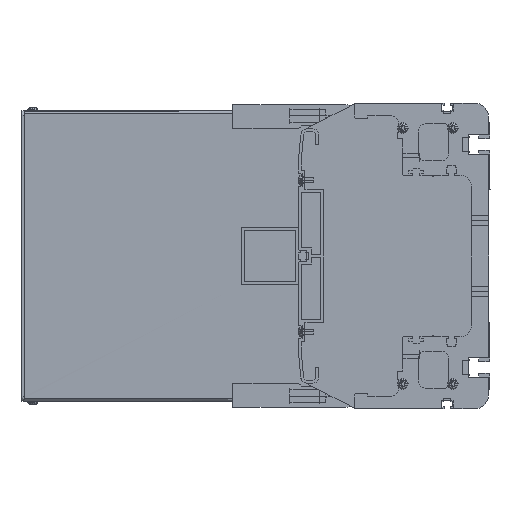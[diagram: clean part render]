
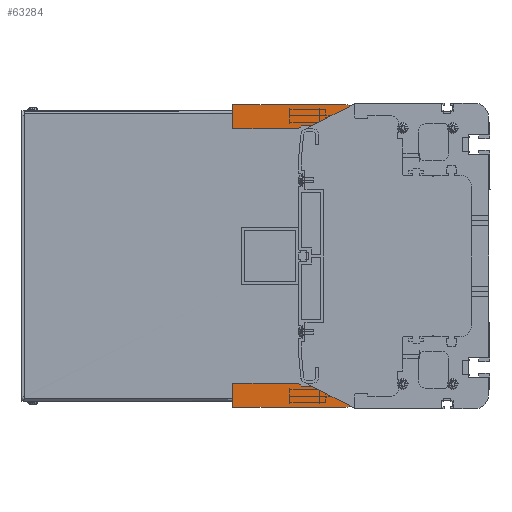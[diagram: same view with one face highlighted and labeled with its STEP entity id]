
A CAD part, left-side view. The second image highlights one B-rep face of the part: STEP entity #63284.
In plain terms, the highlighted planar face has unit normal (-1, 0, 0).
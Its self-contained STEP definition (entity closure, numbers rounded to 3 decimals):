
#58808=DIRECTION('',(0.,0.,1.));
#58809=VECTOR('',#58808,134.);
#58810=CARTESIAN_POINT('',(-434.5,111.,-67.));
#58811=LINE('',#58810,#58809);
#59073=DIRECTION('',(0.,1.,0.));
#59074=VECTOR('',#59073,46.);
#59075=CARTESIAN_POINT('',(-434.5,134.,-89.));
#59076=LINE('',#59075,#59074);
#59298=DIRECTION('',(0.,0.,1.));
#59299=VECTOR('',#59298,13.);
#59300=CARTESIAN_POINT('',(-434.5,114.5,-86.));
#59301=LINE('',#59300,#59299);
#59434=DIRECTION('',(0.,1.,0.));
#59435=VECTOR('',#59434,79.);
#59436=CARTESIAN_POINT('',(-434.5,101.,-106.));
#59437=LINE('',#59436,#59435);
#59438=DIRECTION('',(0.,-0.707,-0.707));
#59439=VECTOR('',#59438,2.828);
#59440=CARTESIAN_POINT('',(-434.5,134.,-89.));
#59441=LINE('',#59440,#59439);
#59442=CARTESIAN_POINT('',(-434.5,119.5,-86.));
#59443=DIRECTION('',(-1.,0.,0.));
#59444=DIRECTION('',(0.,0.,-1.));
#59445=AXIS2_PLACEMENT_3D('',#59442,#59443,#59444);
#59447=CARTESIAN_POINT('',(-434.5,119.5,86.));
#59448=DIRECTION('',(-1.,0.,0.));
#59449=DIRECTION('',(0.,-1.,0.));
#59450=AXIS2_PLACEMENT_3D('',#59447,#59448,#59449);
#59452=DIRECTION('',(0.,0.707,-0.707));
#59453=VECTOR('',#59452,2.828);
#59454=CARTESIAN_POINT('',(-434.5,132.,91.));
#59455=LINE('',#59454,#59453);
#59456=DIRECTION('',(0.,0.,-1.));
#59457=VECTOR('',#59456,17.);
#59458=CARTESIAN_POINT('',(-434.5,180.,106.));
#59459=LINE('',#59458,#59457);
#59460=DIRECTION('',(0.,-1.,0.));
#59461=VECTOR('',#59460,79.);
#59462=CARTESIAN_POINT('',(-434.5,180.,106.));
#59463=LINE('',#59462,#59461);
#59464=CARTESIAN_POINT('',(-434.5,101.,102.));
#59465=DIRECTION('',(1.,0.,0.));
#59466=DIRECTION('',(0.,0.,1.));
#59467=AXIS2_PLACEMENT_3D('',#59464,#59465,#59466);
#59469=CARTESIAN_POINT('',(-434.5,101.,-102.));
#59470=DIRECTION('',(1.,0.,0.));
#59471=DIRECTION('',(0.,-1.,0.));
#59472=AXIS2_PLACEMENT_3D('',#59469,#59470,#59471);
#59534=DIRECTION('',(0.,0.,1.));
#59535=VECTOR('',#59534,17.);
#59536=CARTESIAN_POINT('',(-434.5,180.,-106.));
#59537=LINE('',#59536,#59535);
#59730=DIRECTION('',(0.,0.,-1.));
#59731=VECTOR('',#59730,204.);
#59732=CARTESIAN_POINT('',(-434.5,97.,102.));
#59733=LINE('',#59732,#59731);
#60109=DIRECTION('',(0.,-1.,0.));
#60110=VECTOR('',#60109,46.);
#60111=CARTESIAN_POINT('',(-434.5,180.,89.));
#60112=LINE('',#60111,#60110);
#60160=DIRECTION('',(0.,1.,0.));
#60161=VECTOR('',#60160,12.5);
#60162=CARTESIAN_POINT('',(-434.5,119.5,91.));
#60163=LINE('',#60162,#60161);
#60230=DIRECTION('',(0.,0.,1.));
#60231=VECTOR('',#60230,13.);
#60232=CARTESIAN_POINT('',(-434.5,114.5,73.));
#60233=LINE('',#60232,#60231);
#60546=DIRECTION('',(0.,1.,0.));
#60547=VECTOR('',#60546,6.5);
#60548=CARTESIAN_POINT('',(-434.5,108.,73.));
#60549=LINE('',#60548,#60547);
#60554=DIRECTION('',(0.,0.,1.));
#60555=VECTOR('',#60554,6.);
#60556=CARTESIAN_POINT('',(-434.5,108.,67.));
#60557=LINE('',#60556,#60555);
#60562=DIRECTION('',(0.,-1.,0.));
#60563=VECTOR('',#60562,3.);
#60564=CARTESIAN_POINT('',(-434.5,111.,67.));
#60565=LINE('',#60564,#60563);
#61417=DIRECTION('',(0.,-1.,0.));
#61418=VECTOR('',#61417,12.5);
#61419=CARTESIAN_POINT('',(-434.5,132.,-91.));
#61420=LINE('',#61419,#61418);
#61421=DIRECTION('',(0.,-1.,0.));
#61422=VECTOR('',#61421,6.5);
#61423=CARTESIAN_POINT('',(-434.5,114.5,-73.));
#61424=LINE('',#61423,#61422);
#61433=DIRECTION('',(0.,0.,1.));
#61434=VECTOR('',#61433,6.);
#61435=CARTESIAN_POINT('',(-434.5,108.,-73.));
#61436=LINE('',#61435,#61434);
#61445=DIRECTION('',(0.,1.,0.));
#61446=VECTOR('',#61445,3.);
#61447=CARTESIAN_POINT('',(-434.5,108.,-67.));
#61448=LINE('',#61447,#61446);
#61733=CARTESIAN_POINT('',(-434.5,180.,106.));
#61735=VERTEX_POINT('',#61733);
#61739=CARTESIAN_POINT('',(-434.5,180.,89.));
#61740=VERTEX_POINT('',#61739);
#61754=CARTESIAN_POINT('',(-434.5,180.,-106.));
#61756=VERTEX_POINT('',#61754);
#61757=CARTESIAN_POINT('',(-434.5,180.,-89.));
#61758=VERTEX_POINT('',#61757);
#61773=CARTESIAN_POINT('',(-434.5,97.,102.));
#61774=CARTESIAN_POINT('',(-434.5,97.,-102.));
#61775=VERTEX_POINT('',#61773);
#61776=VERTEX_POINT('',#61774);
#61777=CARTESIAN_POINT('',(-434.5,101.,106.));
#61778=VERTEX_POINT('',#61777);
#61779=CARTESIAN_POINT('',(-434.5,132.,91.));
#61780=CARTESIAN_POINT('',(-434.5,134.,89.));
#61781=VERTEX_POINT('',#61779);
#61782=VERTEX_POINT('',#61780);
#61783=CARTESIAN_POINT('',(-434.5,119.5,91.));
#61784=VERTEX_POINT('',#61783);
#61785=CARTESIAN_POINT('',(-434.5,114.5,86.));
#61786=VERTEX_POINT('',#61785);
#61787=CARTESIAN_POINT('',(-434.5,114.5,73.));
#61788=VERTEX_POINT('',#61787);
#61789=CARTESIAN_POINT('',(-434.5,108.,73.));
#61790=VERTEX_POINT('',#61789);
#61791=CARTESIAN_POINT('',(-434.5,108.,67.));
#61792=VERTEX_POINT('',#61791);
#61793=CARTESIAN_POINT('',(-434.5,111.,67.));
#61794=VERTEX_POINT('',#61793);
#61795=CARTESIAN_POINT('',(-434.5,111.,-67.));
#61796=VERTEX_POINT('',#61795);
#61797=CARTESIAN_POINT('',(-434.5,108.,-67.));
#61798=VERTEX_POINT('',#61797);
#61799=CARTESIAN_POINT('',(-434.5,108.,-73.));
#61800=VERTEX_POINT('',#61799);
#61801=CARTESIAN_POINT('',(-434.5,114.5,-73.));
#61802=VERTEX_POINT('',#61801);
#61803=CARTESIAN_POINT('',(-434.5,114.5,-86.));
#61804=VERTEX_POINT('',#61803);
#61805=CARTESIAN_POINT('',(-434.5,119.5,-91.));
#61806=VERTEX_POINT('',#61805);
#61807=CARTESIAN_POINT('',(-434.5,132.,-91.));
#61808=VERTEX_POINT('',#61807);
#61809=CARTESIAN_POINT('',(-434.5,134.,-89.));
#61810=VERTEX_POINT('',#61809);
#61811=CARTESIAN_POINT('',(-434.5,101.,-106.));
#61812=VERTEX_POINT('',#61811);
#63233=CARTESIAN_POINT('',(-434.5,118.5,0.));
#63234=DIRECTION('',(1.,0.,0.));
#63235=DIRECTION('',(0.,0.,-1.));
#63236=AXIS2_PLACEMENT_3D('',#63233,#63234,#63235);
#63237=PLANE('',#63236);
#63239=ORIENTED_EDGE('',*,*,#63238,.T.);
#63241=ORIENTED_EDGE('',*,*,#63240,.T.);
#63242=ORIENTED_EDGE('',*,*,#62839,.F.);
#63244=ORIENTED_EDGE('',*,*,#63243,.T.);
#63246=ORIENTED_EDGE('',*,*,#63245,.T.);
#63247=ORIENTED_EDGE('',*,*,#63224,.T.);
#63248=ORIENTED_EDGE('',*,*,#63122,.T.);
#63250=ORIENTED_EDGE('',*,*,#63249,.T.);
#63252=ORIENTED_EDGE('',*,*,#63251,.T.);
#63254=ORIENTED_EDGE('',*,*,#63253,.T.);
#63255=ORIENTED_EDGE('',*,*,#62611,.T.);
#63257=ORIENTED_EDGE('',*,*,#63256,.T.);
#63259=ORIENTED_EDGE('',*,*,#63258,.T.);
#63261=ORIENTED_EDGE('',*,*,#63260,.T.);
#63263=ORIENTED_EDGE('',*,*,#63262,.T.);
#63265=ORIENTED_EDGE('',*,*,#63264,.T.);
#63267=ORIENTED_EDGE('',*,*,#63266,.T.);
#63269=ORIENTED_EDGE('',*,*,#63268,.T.);
#63271=ORIENTED_EDGE('',*,*,#63270,.F.);
#63273=ORIENTED_EDGE('',*,*,#63272,.F.);
#63275=ORIENTED_EDGE('',*,*,#63274,.T.);
#63277=ORIENTED_EDGE('',*,*,#63276,.T.);
#63279=ORIENTED_EDGE('',*,*,#63278,.T.);
#63281=ORIENTED_EDGE('',*,*,#63280,.T.);
#63282=EDGE_LOOP('',(#63239,#63241,#63242,#63244,#63246,#63247,#63248,#63250,
#63252,#63254,#63255,#63257,#63259,#63261,#63263,#63265,#63267,#63269,#63271,
#63273,#63275,#63277,#63279,#63281));
#63283=FACE_OUTER_BOUND('',#63282,.F.);
#63284=ADVANCED_FACE('',(#63283),#63237,.F.);
#59446=CIRCLE('',#59445,5.);
#59451=CIRCLE('',#59450,5.);
#59468=CIRCLE('',#59467,4.);
#59473=CIRCLE('',#59472,4.);
#62611=EDGE_CURVE('',#61796,#61794,#58811,.T.);
#62839=EDGE_CURVE('',#61810,#61758,#59076,.T.);
#63122=EDGE_CURVE('',#61804,#61802,#59301,.T.);
#63224=EDGE_CURVE('',#61806,#61804,#59446,.T.);
#63238=EDGE_CURVE('',#61812,#61756,#59437,.T.);
#63240=EDGE_CURVE('',#61756,#61758,#59537,.T.);
#63243=EDGE_CURVE('',#61810,#61808,#59441,.T.);
#63245=EDGE_CURVE('',#61808,#61806,#61420,.T.);
#63249=EDGE_CURVE('',#61802,#61800,#61424,.T.);
#63251=EDGE_CURVE('',#61800,#61798,#61436,.T.);
#63253=EDGE_CURVE('',#61798,#61796,#61448,.T.);
#63256=EDGE_CURVE('',#61794,#61792,#60565,.T.);
#63258=EDGE_CURVE('',#61792,#61790,#60557,.T.);
#63260=EDGE_CURVE('',#61790,#61788,#60549,.T.);
#63262=EDGE_CURVE('',#61788,#61786,#60233,.T.);
#63264=EDGE_CURVE('',#61786,#61784,#59451,.T.);
#63266=EDGE_CURVE('',#61784,#61781,#60163,.T.);
#63268=EDGE_CURVE('',#61781,#61782,#59455,.T.);
#63270=EDGE_CURVE('',#61740,#61782,#60112,.T.);
#63272=EDGE_CURVE('',#61735,#61740,#59459,.T.);
#63274=EDGE_CURVE('',#61735,#61778,#59463,.T.);
#63276=EDGE_CURVE('',#61778,#61775,#59468,.T.);
#63278=EDGE_CURVE('',#61775,#61776,#59733,.T.);
#63280=EDGE_CURVE('',#61776,#61812,#59473,.T.);
